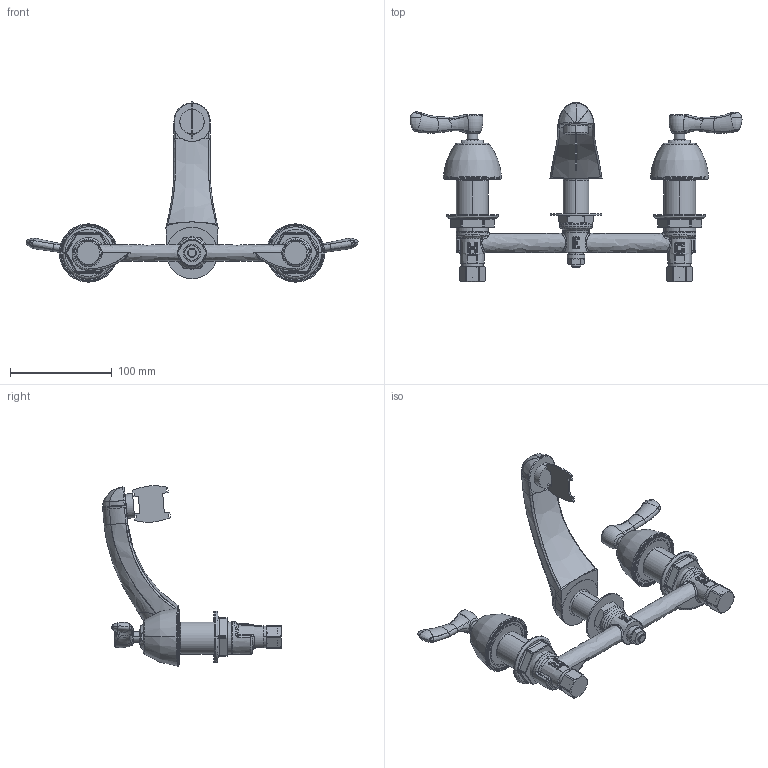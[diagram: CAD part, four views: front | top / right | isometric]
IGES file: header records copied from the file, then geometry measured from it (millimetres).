
Start section:  PTC IGES file: 404-v_sw0001.igs
Global section: file name: 404-v_sw0001.igs; native system: Pro/ENGINEER by Parametric Technology Corporation; preprocessor: 2010230; author: jrodriguez; organization: Unknown; date: 20110513.170638; units: inch
Bounding box: 325.57 x 175.42 x 176.77 mm (x, y, z)
Surface area: 119608.9 mm2 (no closed solid volume)
Topology: 0 solids, 0 shells, 814 faces, 5741 edges, 7659 vertices
Faces by surface type: bspline 434, revolution 380
